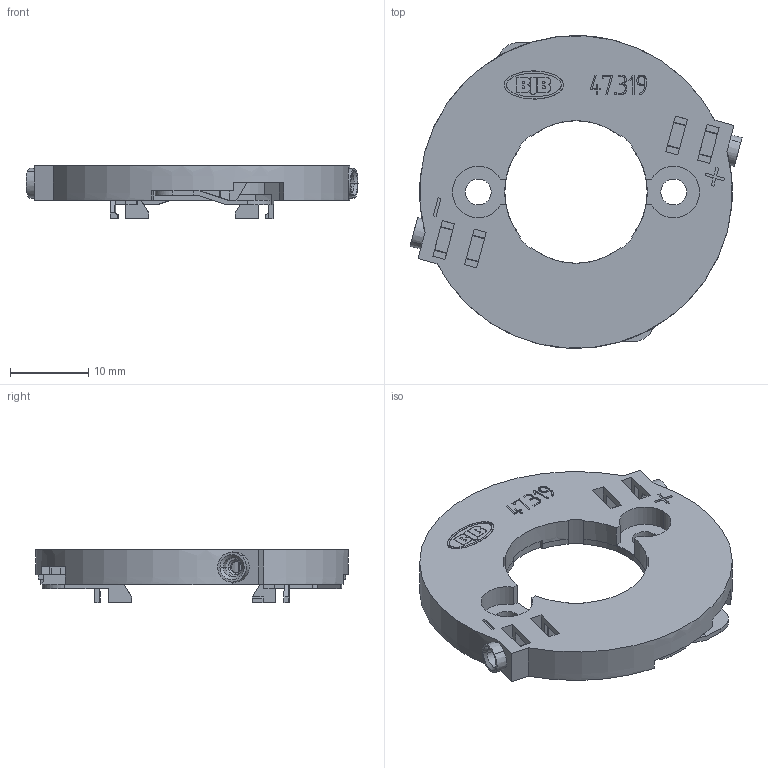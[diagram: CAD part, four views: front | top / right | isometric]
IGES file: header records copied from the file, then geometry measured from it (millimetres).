
Global section: file name: C:\CoreTechnologie\3D-in\01TYA7CY01.igs; native system: CT CoreTechnologie 3D Evolution; preprocessor: 2006; author: assmuth; date: 1170223.133235; units: metre
Bounding box: 42.46 x 40 x 6.85 mm (x, y, z)
Volume: 2506.3 mm3; surface area: 4850 mm2
Topology: 5 solids, 5 shells, 634 faces, 1782 edges, 1180 vertices
Faces by surface type: plane 494, revolution 126, extrusion 14
